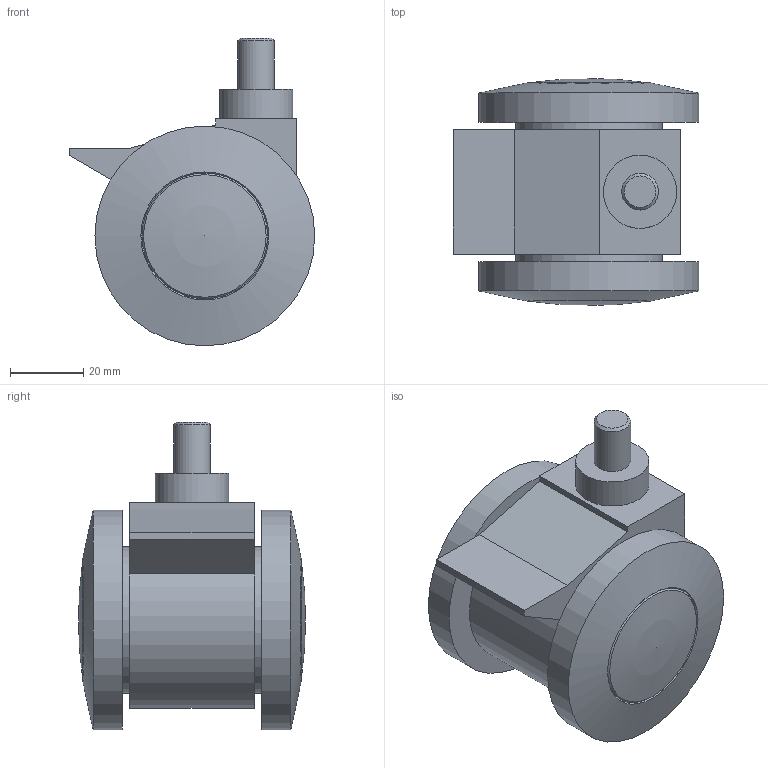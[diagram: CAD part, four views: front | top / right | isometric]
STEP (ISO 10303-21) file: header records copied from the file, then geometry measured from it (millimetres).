
FILE_DESCRIPTION(('STEP AP214'),'1');
FILE_NAME('CA50-VN.stp','2017-07-21T02:20:55',(' '),(' '),'Spatial InterOp 3D',' ',' ');
FILE_SCHEMA(('automotive_design'));
Length unit declared in the file: millimetre
Products named in the file (5): CA50-VN; CA50VNﾎﾞﾃﾞｨｰ; CA50VNシャフト
Assembly tree (4 placements, depth 2):
  CA50-VN
    CA50VNﾎﾞﾃﾞｨｰ
    (unnamed)
    (unnamed)
    CA50VNシャフト
Bounding box: 67 x 62 x 84 mm (x, y, z)
Volume: 146831.9 mm3; surface area: 28401.4 mm2
Topology: 4 solids, 4 shells, 33 faces, 67 edges, 43 vertices
Faces by surface type: plane 17, cylinder 7, cone 5, sphere 4
Full cylindrical faces by diameter (mm): 10 x1, 20 x1, 40 x2, 60 x2
Entity records: 1103 total; most frequent: DIRECTION 143, CARTESIAN_POINT 121, ORIENTED_EDGE 92, AXIS2_PLACEMENT_3D 59, EDGE_LOOP 49, EDGE_CURVE 46, FACE_OUTER_BOUND 41, VERTEX_POINT 37
